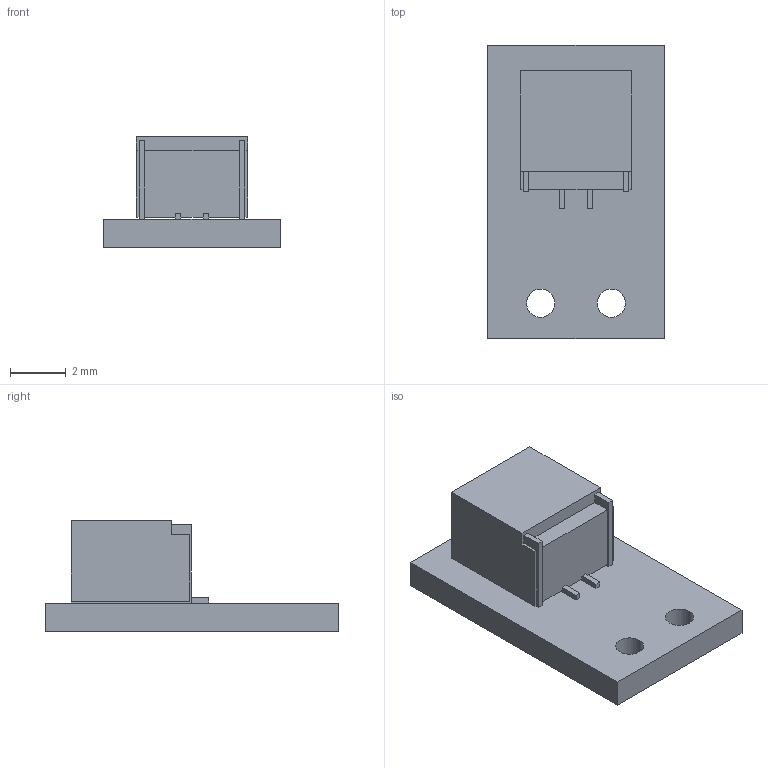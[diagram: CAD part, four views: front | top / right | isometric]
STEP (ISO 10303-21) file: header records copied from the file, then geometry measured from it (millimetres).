
FILE_DESCRIPTION (( 'STEP AP214' ), '1' );
FILE_NAME ('con04a_side.step', '2025-06-12T20:49:49', ( '' ), ( '' ), 'SwSTEP 2.0', 'SolidWorks 2025', '' );
FILE_SCHEMA (( 'AUTOMOTIVE_DESIGN' ));
Length unit declared in the file: millimetre
Products named in the file (1): con04a_side
Bounding box: 6.35 x 10.54 x 3.99 mm (x, y, z)
Volume: 98.8 mm3; surface area: 287.5 mm2
Topology: 1 solids, 1 shells, 448 faces, 1209 edges, 806 vertices
Faces by surface type: plane 268, bspline 176, cylinder 4
Entity records: 25448 total; most frequent: CARTESIAN_POINT 10456, ORIENTED_EDGE 2418, DIRECTION 1411, EDGE_CURVE 1209, VECTOR 849, LINE 849, VERTEX_POINT 806, EDGE_LOOP 501
